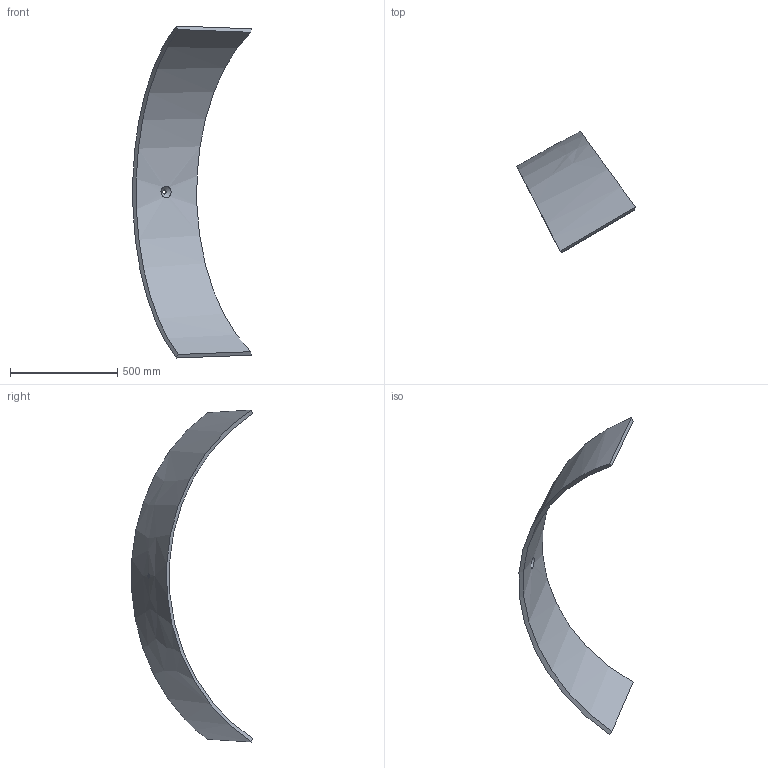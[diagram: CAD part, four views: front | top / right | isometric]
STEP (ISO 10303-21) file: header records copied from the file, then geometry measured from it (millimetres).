
FILE_DESCRIPTION (( 'STEP AP214' ), '1' );
FILE_NAME ('P10.1.STEP', '2025-01-09T19:43:27', ( '' ), ( '' ), 'SwSTEP 2.0', 'SolidWorks 2024', '' );
FILE_SCHEMA (( 'AUTOMOTIVE_DESIGN' ));
Length unit declared in the file: inch
Products named in the file (1): P10.1
Bounding box: 553.21 x 564.58 x 1550.54 mm (x, y, z)
Volume: 12219009.3 mm3; surface area: 1394764.2 mm2
Topology: 1 solids, 1 shells, 8 faces, 17 edges, 11 vertices
Faces by surface type: bspline 7, cylinder 1
Full cylindrical faces by diameter (mm): 19.447 x1
Entity records: 2703 total; most frequent: CARTESIAN_POINT 2555, ORIENTED_EDGE 30, EDGE_CURVE 15, B_SPLINE_CURVE_WITH_KNOTS 15, EDGE_LOOP 12, VERTEX_POINT 11, FACE_OUTER_BOUND 10, ADVANCED_FACE 8
